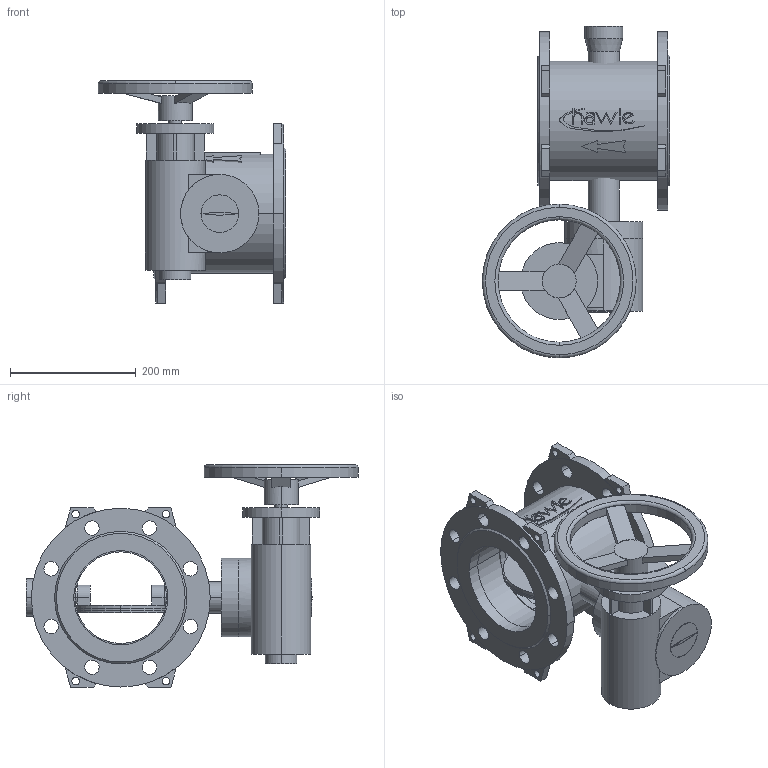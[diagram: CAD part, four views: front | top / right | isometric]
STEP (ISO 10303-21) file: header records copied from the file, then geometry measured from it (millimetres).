
FILE_DESCRIPTION(('STEP AP214'),'1');
FILE_NAME('S:/EK/USER/CAT6/3DHomepage_27-04-2012/neu_08-01-2013/9881K/9881K_PN16_DN150_7800.STP','2013-02-26T15:14:47',(' '),(' '),'Spatial InterOp 3D',' ',' ');
FILE_SCHEMA(('automotive_design'));
Length unit declared in the file: millimetre
Products named in the file (45): 3D-Objekt
Bounding box: 298.5 x 529 x 355 mm (x, y, z)
Volume: 7627486.7 mm3; surface area: 902428.9 mm2
Topology: 45 solids, 45 shells, 372 faces, 835 edges, 556 vertices
Faces by surface type: plane 210, cylinder 152, cone 6, torus 4
Entity records: 14690 total; most frequent: DIRECTION 2019, CARTESIAN_POINT 1882, ORIENTED_EDGE 1670, EDGE_CURVE 835, AXIS2_PLACEMENT_3D 769, VERTEX_POINT 556, LINE 481, VECTOR 481
